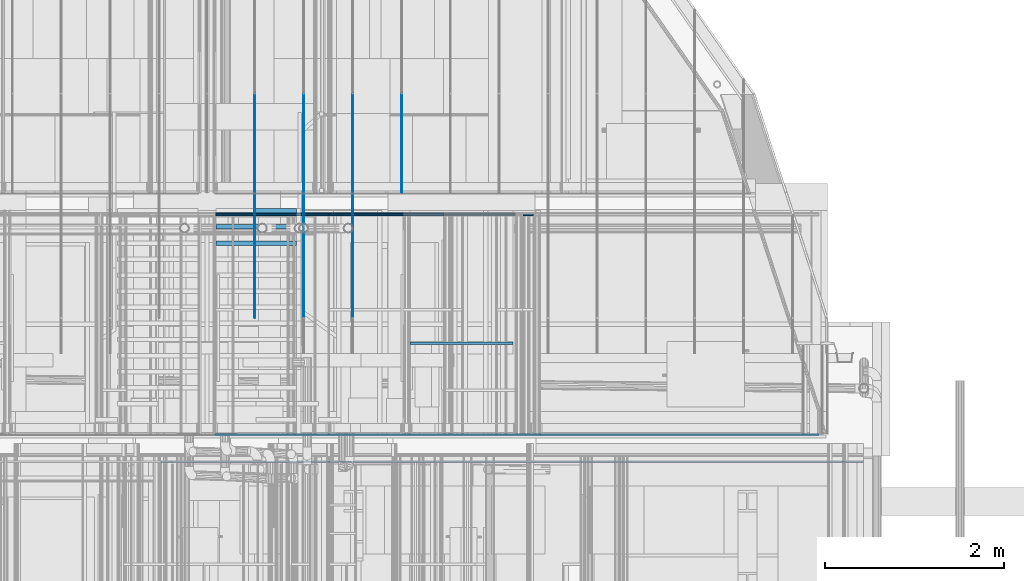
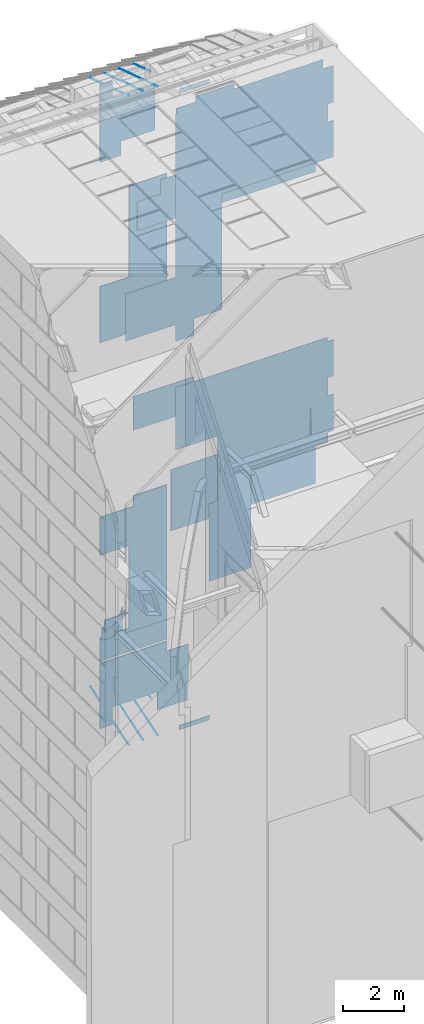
# One storey, part 283 of 583: 28 slabs.
"""IFC2X3 building model written with IfcOpenShell, lengths in metres."""

from ifc_helpers import new_model, entity, si_unit, converted_unit, derived_unit, money_unit, direction, frame, origin_with_axes, place, context, subcontext, project, spatial, faceted_brep, material, type_object, element, save


model = new_model("IFC2X3")

# Units and contexts
model_context = context("Model", 3, precision=1e-05, world=origin_with_axes(), true_north=direction((0.0, 1.0)))
body_context = subcontext(model_context, "Body", "Model", "MODEL_VIEW", scale=1.0)
ifc_project = project(units=[si_unit("LENGTHUNIT", "METRE"), si_unit("AREAUNIT", "SQUARE_METRE"), si_unit("VOLUMEUNIT", "CUBIC_METRE"), si_unit("ABSORBEDDOSEUNIT", "GRAY"), si_unit("AMOUNTOFSUBSTANCEUNIT", "MOLE"), si_unit("DOSEEQUIVALENTUNIT", "SIEVERT"), si_unit("ELECTRICCAPACITANCEUNIT", "FARAD"), si_unit("ELECTRICCHARGEUNIT", "COULOMB"), si_unit("ELECTRICCONDUCTANCEUNIT", "SIEMENS"), si_unit("ELECTRICCURRENTUNIT", "AMPERE"), si_unit("ELECTRICRESISTANCEUNIT", "OHM"), si_unit("ELECTRICVOLTAGEUNIT", "VOLT"), si_unit("ENERGYUNIT", "JOULE"), si_unit("FORCEUNIT", "NEWTON"), si_unit("FREQUENCYUNIT", "HERTZ"), si_unit("ILLUMINANCEUNIT", "LUX"), si_unit("INDUCTANCEUNIT", "HENRY"), si_unit("LUMINOUSFLUXUNIT", "LUMEN"), si_unit("LUMINOUSINTENSITYUNIT", "CANDELA"), si_unit("MAGNETICFLUXDENSITYUNIT", "TESLA"), si_unit("MAGNETICFLUXUNIT", "WEBER"), si_unit("MASSUNIT", "GRAM"), converted_unit("PLANEANGLEUNIT", "degree", entity("IfcReal", 0.0174532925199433), si_unit("PLANEANGLEUNIT", "RADIAN"), dimensions=[0, 0, 0, 0, 0, 0, 0]), si_unit("POWERUNIT", "WATT"), si_unit("PRESSUREUNIT", "PASCAL"), si_unit("RADIOACTIVITYUNIT", "BECQUEREL"), si_unit("SOLIDANGLEUNIT", "STERADIAN"), si_unit("THERMODYNAMICTEMPERATUREUNIT", "KELVIN"), si_unit("TIMEUNIT", "SECOND"), derived_unit("ACCELERATIONUNIT", [(si_unit("LENGTHUNIT", "METRE"), 1), (si_unit("TIMEUNIT", "SECOND"), -2)]), derived_unit("ANGULARVELOCITYUNIT", [(converted_unit("PLANEANGLEUNIT", "degree", entity("IfcReal", 0.0174532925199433), si_unit("PLANEANGLEUNIT", "RADIAN"), dimensions=[0, 0, 0, 0, 0, 0, 0]), 1), (si_unit("TIMEUNIT", "SECOND"), -1)]), derived_unit("CURVATUREUNIT", [(converted_unit("PLANEANGLEUNIT", "degree", entity("IfcReal", 0.0174532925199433), si_unit("PLANEANGLEUNIT", "RADIAN"), dimensions=[0, 0, 0, 0, 0, 0, 0]), 1), (si_unit("LENGTHUNIT", "METRE"), -1)]), derived_unit("DYNAMICVISCOSITYUNIT", [(si_unit("PRESSUREUNIT", "PASCAL"), 1), (si_unit("TIMEUNIT", "SECOND"), 1)]), derived_unit("HEATFLUXDENSITYUNIT", [(si_unit("POWERUNIT", "WATT"), 1), (si_unit("LENGTHUNIT", "METRE"), -2)]), derived_unit("HEATINGVALUEUNIT", [(si_unit("ENERGYUNIT", "JOULE"), 1), (si_unit("MASSUNIT", "GRAM"), -1)]), derived_unit("INTEGERCOUNTRATEUNIT", [(si_unit("TIMEUNIT", "SECOND"), -1)]), derived_unit("IONCONCENTRATIONUNIT", [(si_unit("MASSUNIT", "GRAM"), 1), (si_unit("VOLUMEUNIT", "CUBIC_METRE"), -1)]), derived_unit("ISOTHERMALMOISTURECAPACITYUNIT", [(si_unit("VOLUMEUNIT", "CUBIC_METRE"), 1), (si_unit("MASSUNIT", "GRAM"), -1)]), derived_unit("KINEMATICVISCOSITYUNIT", [(si_unit("AREAUNIT", "SQUARE_METRE"), 1), (si_unit("TIMEUNIT", "SECOND"), -1)]), derived_unit("LINEARFORCEUNIT", [(si_unit("FORCEUNIT", "NEWTON"), 1), (si_unit("LENGTHUNIT", "METRE"), -1)]), derived_unit("LINEARMOMENTUNIT", [(si_unit("FORCEUNIT", "NEWTON"), 1), (si_unit("LENGTHUNIT", "METRE"), -1)]), derived_unit("LINEARSTIFFNESSUNIT", [(si_unit("FORCEUNIT", "NEWTON"), 1), (si_unit("LENGTHUNIT", "METRE"), -1)]), derived_unit("LINEARVELOCITYUNIT", [(si_unit("LENGTHUNIT", "METRE"), 1), (si_unit("TIMEUNIT", "SECOND"), -1)]), derived_unit("LUMINOUSINTENSITYDISTRIBUTIONUNIT", [(si_unit("LUMINOUSINTENSITYUNIT", "CANDELA"), 1), (si_unit("LUMINOUSFLUXUNIT", "LUMEN"), -1)]), derived_unit("MASSDENSITYUNIT", [(si_unit("MASSUNIT", "GRAM"), 1), (si_unit("VOLUMEUNIT", "CUBIC_METRE"), -1)]), derived_unit("MASSFLOWRATEUNIT", [(si_unit("MASSUNIT", "GRAM"), 1), (si_unit("TIMEUNIT", "SECOND"), -1)]), derived_unit("MASSPERLENGTHUNIT", [(si_unit("MASSUNIT", "GRAM"), 1), (si_unit("LENGTHUNIT", "METRE"), -1)]), derived_unit("MODULUSOFELASTICITYUNIT", [(si_unit("FORCEUNIT", "NEWTON"), 1), (si_unit("AREAUNIT", "SQUARE_METRE"), -1)]), derived_unit("MODULUSOFLINEARSUBGRADEREACTIONUNIT", [(si_unit("FORCEUNIT", "NEWTON"), 1), (si_unit("LENGTHUNIT", "METRE"), -2)]), derived_unit("MODULUSOFROTATIONALSUBGRADEREACTIONUNIT", [(si_unit("FORCEUNIT", "NEWTON"), 1), (si_unit("LENGTHUNIT", "METRE"), 1)]), derived_unit("MODULUSOFSUBGRADEREACTIONUNIT", [(si_unit("FORCEUNIT", "NEWTON"), 1), (si_unit("VOLUMEUNIT", "CUBIC_METRE"), -1)]), derived_unit("MOISTUREDIFFUSIVITYUNIT", [(si_unit("VOLUMEUNIT", "CUBIC_METRE"), 1), (si_unit("TIMEUNIT", "SECOND"), -1)]), derived_unit("MOLECULARWEIGHTUNIT", [(si_unit("MASSUNIT", "GRAM"), 1), (si_unit("AMOUNTOFSUBSTANCEUNIT", "MOLE"), -1)]), derived_unit("PLANARFORCEUNIT", [(si_unit("FORCEUNIT", "NEWTON"), 1), (si_unit("LENGTHUNIT", "METRE"), -2)]), derived_unit("ROTATIONALFREQUENCYUNIT", [(si_unit("TIMEUNIT", "SECOND"), -1)]), derived_unit("ROTATIONALMASSUNIT", [(si_unit("MASSUNIT", "GRAM"), 1), (si_unit("LENGTHUNIT", "METRE"), 2)]), derived_unit("ROTATIONALSTIFFNESSUNIT", [(si_unit("FORCEUNIT", "NEWTON"), 1), (si_unit("LENGTHUNIT", "METRE"), 1), (converted_unit("PLANEANGLEUNIT", "degree", entity("IfcReal", 0.0174532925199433), si_unit("PLANEANGLEUNIT", "RADIAN"), dimensions=[0, 0, 0, 0, 0, 0, 0]), -1)]), derived_unit("SECTIONAREAINTEGRALUNIT", [(si_unit("LENGTHUNIT", "METRE"), 5)]), derived_unit("SECTIONMODULUSUNIT", [(si_unit("LENGTHUNIT", "METRE"), 3)]), derived_unit("SHEARMODULUSUNIT", [(si_unit("FORCEUNIT", "NEWTON"), 1), (si_unit("AREAUNIT", "SQUARE_METRE"), -1)]), derived_unit("SOUNDPOWERUNIT", [(si_unit("ENERGYUNIT", "JOULE"), 1), (si_unit("TIMEUNIT", "SECOND"), -1)]), derived_unit("SPECIFICHEATCAPACITYUNIT", [(si_unit("FORCEUNIT", "NEWTON"), 1), (si_unit("MASSUNIT", "GRAM"), -1), (si_unit("THERMODYNAMICTEMPERATUREUNIT", "KELVIN"), -1)]), derived_unit("TEMPERATUREGRADIENTUNIT", [(si_unit("THERMODYNAMICTEMPERATUREUNIT", "KELVIN"), 1), (si_unit("LENGTHUNIT", "METRE"), -1)]), derived_unit("THERMALADMITTANCEUNIT", [(si_unit("POWERUNIT", "WATT"), 1), (si_unit("AREAUNIT", "SQUARE_METRE"), -1), (si_unit("THERMODYNAMICTEMPERATUREUNIT", "KELVIN"), -1)]), derived_unit("THERMALCONDUCTANCEUNIT", [(si_unit("POWERUNIT", "WATT"), 1), (si_unit("LENGTHUNIT", "METRE"), -1), (si_unit("THERMODYNAMICTEMPERATUREUNIT", "KELVIN"), -1)]), derived_unit("THERMALEXPANSIONCOEFFICIENTUNIT", [(si_unit("THERMODYNAMICTEMPERATUREUNIT", "KELVIN"), -1)]), derived_unit("THERMALRESISTANCEUNIT", [(si_unit("AREAUNIT", "SQUARE_METRE"), 1), (si_unit("POWERUNIT", "WATT"), -1)]), derived_unit("THERMALTRANSMITTANCEUNIT", [(si_unit("POWERUNIT", "WATT"), 1), (si_unit("AREAUNIT", "SQUARE_METRE"), -1), (si_unit("THERMODYNAMICTEMPERATUREUNIT", "KELVIN"), -1)]), derived_unit("TORQUEUNIT", [(si_unit("FORCEUNIT", "NEWTON"), 1), (si_unit("LENGTHUNIT", "METRE"), 1)]), derived_unit("VAPORPERMEABILITYUNIT", [(si_unit("MASSUNIT", "GRAM"), 1), (si_unit("TIMEUNIT", "SECOND"), -1)]), derived_unit("VOLUMETRICFLOWRATEUNIT", [(si_unit("VOLUMEUNIT", "CUBIC_METRE"), 1), (si_unit("TIMEUNIT", "SECOND"), -1)]), derived_unit("WARPINGCONSTANTUNIT", [(si_unit("LENGTHUNIT", "METRE"), 6)]), derived_unit("WARPINGMOMENTUNIT", [(si_unit("FORCEUNIT", "NEWTON"), 1), (si_unit("LENGTHUNIT", "METRE"), 2)]), money_unit("GBP")], contexts=[model_context])

# Site, building, storey
site_placement = place(None, origin_with_axes())
site = spatial("IfcSite", under=ifc_project, at=site_placement, Name="Site", CompositionType="ELEMENT")
building_placement = place(site_placement, origin_with_axes())
building = spatial("IfcBuilding", under=site, at=building_placement, Name="Building01", CompositionType="ELEMENT")
storey_placement = place(building_placement, frame((0.0, 0.0, 20.78), z_axis=(0.0, 0.0, 1.0), x_axis=(1.0, 0.0, 0.0)))
storey = spatial("IfcBuildingStorey", under=building, at=storey_placement, Name="RL", CompositionType="ELEMENT", Elevation=20.78)

# Slabs
ifc_material_1 = material(Name="A_BSUK_CeilingSoffitFinishes_Suspended")
slab_type_1 = type_object("IfcSlabType", Name="A-FloorsSlabs A_BSUK_Slabs", PredefinedType="FLOOR")
placement = place(storey_placement, frame((0.0, 0.0, -20.78), z_axis=(0.0, 0.0, 1.0), x_axis=(1.0, 0.0, 0.0)))
element("IfcSlab", 1, at=placement, inside=storey, type_object=slab_type_1, material=ifc_material_1, Name="A-FloorsSlabs A_BSUK_Slabs", ObjectType="CompoundSlabLeaf", context=body_context, shape_type="Brep", body=[
    faceted_brep([(10.415, 14.658, 12.988585), (10.415, 14.673, 12.988585), (10.415, 14.673, 10.393871), (10.415, 14.658, 10.393871), (8.82, 14.658, 12.988585), (8.82, 14.673, 12.988585), (8.82, 14.658, 15.483132), (8.82, 14.673, 15.483132), (14.567, 14.658, 15.483132), (14.567, 14.673, 15.483132), (14.567, 14.658, 15.32), (14.567, 14.673, 15.32), (14.8, 14.658, 15.32), (14.8, 14.673, 15.32), (14.8, 14.658, 13.865), (14.8, 14.673, 13.865), (14.582, 14.658, 13.865), (14.582, 14.673, 13.865), (14.582, 14.658, 13.145), (14.582, 14.673, 13.145), (14.8, 14.658, 13.145), (14.8, 14.673, 13.145), (14.8, 14.658, 11.675), (14.8, 14.673, 11.675), (14.582, 14.658, 11.675), (14.582, 14.673, 11.675), (14.582, 14.658, 11.275), (14.582, 14.673, 11.275), (11.668124, 14.658, 11.275), (11.668124, 14.673, 11.275), (11.668124, 14.658, 10.653), (11.668124, 14.673, 10.653), (11.668124, 14.658, 9.642), (11.668124, 14.673, 9.642), (11.668124, 14.658, 7.289669), (11.668124, 14.673, 7.289669), (10.087704, 14.658, 7.289669), (10.087704, 14.673, 7.289669), (10.087704, 14.658, 10.393871), (10.087704, 14.673, 10.393871)], [[[0, 1, 2, 3]], [[4, 5, 1, 0]], [[6, 7, 5, 4]], [[8, 9, 7, 6]], [[10, 11, 9, 8]], [[12, 13, 11, 10]], [[14, 15, 13, 12]], [[16, 17, 15, 14]], [[18, 19, 17, 16]], [[20, 21, 19, 18]], [[22, 23, 21, 20]], [[24, 25, 23, 22]], [[26, 27, 25, 24]], [[28, 29, 27, 26]], [[30, 31, 29, 28]], [[32, 33, 31, 30]], [[34, 35, 33, 32]], [[36, 37, 35, 34]], [[38, 39, 37, 36]], [[3, 2, 39, 38]], [[1, 5, 7, 9, 11, 13, 15, 17, 19, 21, 23, 25, 27, 29, 31, 33, 35, 37, 39, 2]], [[3, 38, 36, 34, 32, 30, 28, 26, 24, 22, 20, 18, 16, 14, 12, 10, 8, 6, 4, 0]]]),
])
element("IfcSlab", 2, at=placement, inside=storey, type_object=slab_type_1, material=ifc_material_1, Name="A-FloorsSlabs A_BSUK_Slabs", ObjectType="CompoundSlabLeaf", context=body_context, shape_type="Brep", body=[
    faceted_brep([(6.93, 14.658, 18.395), (6.93, 14.673, 18.395), (6.93, 14.673, 18.0), (6.93, 14.658, 18.0), (6.93, 14.658, 19.395), (6.93, 14.673, 19.395), (6.93, 14.658, 19.897661), (6.93, 14.673, 19.897661), (8.82, 14.658, 19.897661), (8.82, 14.673, 19.897661), (8.82, 14.658, 26.432), (8.82, 14.673, 26.432), (8.848, 14.658, 26.432), (8.848, 14.673, 26.432), (8.848, 14.658, 26.646178), (8.848, 14.673, 26.646178), (9.57718, 14.658, 26.646178), (9.57718, 14.673, 26.646178), (9.57718, 14.658, 26.88), (9.57718, 14.673, 26.88), (11.03218, 14.658, 26.88), (11.03218, 14.673, 26.88), (11.03218, 14.658, 26.662), (11.03218, 14.673, 26.662), (14.402, 14.658, 26.662), (14.402, 14.673, 26.662), (14.402, 14.658, 26.285), (14.402, 14.673, 26.285), (14.8, 14.658, 26.285), (14.8, 14.673, 26.285), (14.8, 14.658, 24.815), (14.8, 14.673, 24.815), (14.582, 14.658, 24.815), (14.582, 14.673, 24.815), (14.582, 14.658, 24.095), (14.582, 14.673, 24.095), (14.8, 14.658, 24.095), (14.8, 14.673, 24.095), (14.8, 14.658, 22.625), (14.8, 14.673, 22.625), (10.57, 14.658, 22.625), (10.57, 14.673, 22.625), (10.57, 14.658, 19.891284), (10.57, 14.673, 19.891284), (10.57, 14.658, 19.044398), (10.57, 14.673, 19.044398), (10.57, 14.658, 18.0), (10.57, 14.673, 18.0), (9.525, 14.658, 18.0), (9.525, 14.673, 18.0), (9.525, 14.658, 17.333132), (9.525, 14.673, 17.333132), (8.82, 14.658, 17.333132), (8.82, 14.673, 17.333132), (8.82, 14.658, 18.0), (8.82, 14.673, 18.0), (7.82088, 14.658, 18.0), (7.82088, 14.673, 18.0), (7.02888, 14.658, 18.0), (7.02888, 14.673, 18.0)], [[[0, 1, 2, 3]], [[4, 5, 1, 0]], [[6, 7, 5, 4]], [[8, 9, 7, 6]], [[10, 11, 9, 8]], [[12, 13, 11, 10]], [[14, 15, 13, 12]], [[16, 17, 15, 14]], [[18, 19, 17, 16]], [[20, 21, 19, 18]], [[22, 23, 21, 20]], [[24, 25, 23, 22]], [[26, 27, 25, 24]], [[28, 29, 27, 26]], [[30, 31, 29, 28]], [[32, 33, 31, 30]], [[34, 35, 33, 32]], [[36, 37, 35, 34]], [[38, 39, 37, 36]], [[40, 41, 39, 38]], [[42, 43, 41, 40]], [[44, 45, 43, 42]], [[46, 47, 45, 44]], [[48, 49, 47, 46]], [[50, 51, 49, 48]], [[52, 53, 51, 50]], [[54, 55, 53, 52]], [[56, 57, 55, 54]], [[58, 59, 57, 56]], [[3, 2, 59, 58]], [[1, 5, 7, 9, 11, 13, 15, 17, 19, 21, 23, 25, 27, 29, 31, 33, 35, 37, 39, 41, 43, 45, 47, 49, 51, 53, 55, 57, 59, 2]], [[3, 58, 56, 54, 52, 50, 48, 46, 44, 42, 40, 38, 36, 34, 32, 30, 28, 26, 24, 22, 20, 18, 16, 14, 12, 10, 8, 6, 4, 0]]]),
])
element("IfcSlab", 3, at=placement, inside=storey, type_object=slab_type_1, material=ifc_material_1, Name="A-FloorsSlabs A_BSUK_Slabs", ObjectType="CompoundSlabLeaf", context=body_context, shape_type="Brep", body=[
    faceted_brep([(10.899939, 17.423, 1.336179), (10.899939, 17.438, 1.336179), (10.899939, 17.438, 2.82), (10.899939, 17.423, 2.82), (10.874915, 17.423, 1.336179), (10.874915, 17.438, 1.336179), (10.874915, 17.423, 0.599939), (10.874915, 17.438, 0.599939), (9.724964, 17.423, 0.599939), (9.724964, 17.438, 0.599939), (9.724964, 17.423, 1.312402), (9.724964, 17.438, 1.312402), (8.024915, 17.423, 1.312402), (8.024915, 17.438, 1.312402), (8.024915, 17.423, 0.599939), (8.024915, 17.438, 0.599939), (7.550061, 17.423, 0.599939), (7.550061, 17.438, 0.599939), (7.550061, 17.423, 3.22), (7.550061, 17.438, 3.22), (10.099939, 17.423, 3.22), (10.099939, 17.438, 3.22), (10.099939, 17.423, 2.82), (10.099939, 17.438, 2.82)], [[[0, 1, 2, 3]], [[4, 5, 1, 0]], [[6, 7, 5, 4]], [[8, 9, 7, 6]], [[10, 11, 9, 8]], [[12, 13, 11, 10]], [[14, 15, 13, 12]], [[16, 17, 15, 14]], [[18, 19, 17, 16]], [[20, 21, 19, 18]], [[22, 23, 21, 20]], [[3, 2, 23, 22]], [[1, 5, 7, 9, 11, 13, 15, 17, 19, 21, 23, 2]], [[3, 22, 20, 18, 16, 14, 12, 10, 8, 6, 4, 0]]]),
])
element("IfcSlab", 4, at=placement, inside=storey, type_object=slab_type_1, material=ifc_material_1, Name="A-FloorsSlabs A_BSUK_Slabs", ObjectType="CompoundSlabLeaf", context=body_context, shape_type="Brep", body=[
    faceted_brep([(8.695061, 17.423, 3.3), (8.695061, 17.438, 3.3), (10.099939, 17.438, 3.3), (10.099939, 17.423, 3.3), (7.550061, 17.423, 3.3), (7.550061, 17.438, 3.3), (7.550061, 17.423, 4.24), (7.550061, 17.438, 4.24), (8.647427, 17.423, 4.24), (8.647427, 17.438, 4.24), (8.647427, 17.423, 7.54), (8.647427, 17.438, 7.54), (7.55, 17.423, 7.54), (7.55, 17.438, 7.54), (7.55, 17.423, 9.06), (7.55, 17.438, 9.06), (8.82, 17.423, 9.06), (8.82, 17.438, 9.06), (8.82, 17.423, 9.480024), (8.82, 17.438, 9.480024), (10.099939, 17.423, 9.480024), (10.099939, 17.438, 9.480024)], [[[0, 1, 2, 3]], [[4, 5, 1, 0]], [[6, 7, 5, 4]], [[8, 9, 7, 6]], [[10, 11, 9, 8]], [[12, 13, 11, 10]], [[14, 15, 13, 12]], [[16, 17, 15, 14]], [[18, 19, 17, 16]], [[20, 21, 19, 18]], [[3, 2, 21, 20]], [[1, 5, 7, 9, 11, 13, 15, 17, 19, 21, 2]], [[3, 20, 18, 16, 14, 12, 10, 8, 6, 4, 0]]]),
])
element("IfcSlab", 5, at=placement, inside=storey, type_object=slab_type_1, material=ifc_material_1, Name="A-FloorsSlabs A_BSUK_Slabs", ObjectType="CompoundSlabLeaf", context=body_context, shape_type="Brep", body=[
    faceted_brep([(8.82, 17.423, 12.097381), (8.82, 17.438, 12.097381), (11.103849, 17.438, 12.097381), (11.103849, 17.423, 12.097381), (8.82, 17.423, 13.297256), (8.82, 17.438, 13.297256), (8.82, 17.423, 13.45), (8.82, 17.438, 13.45), (11.103849, 17.423, 13.45), (11.103849, 17.438, 13.45)], [[[0, 1, 2, 3]], [[4, 5, 1, 0]], [[6, 7, 5, 4]], [[8, 9, 7, 6]], [[3, 2, 9, 8]], [[1, 5, 7, 9, 2]], [[3, 8, 6, 4, 0]]]),
])
element("IfcSlab", 6, at=placement, inside=storey, type_object=slab_type_1, material=ifc_material_1, Name="A-FloorsSlabs A_BSUK_Slabs", ObjectType="CompoundSlabLeaf", context=body_context, shape_type="Brep", body=[
    faceted_brep([(7.549915, 17.423, 16.03844), (7.549915, 17.438, 16.03844), (10.099939, 17.438, 16.03844), (10.099939, 17.423, 16.03844), (7.549915, 17.423, 18.289976), (7.549915, 17.438, 18.289976), (8.647427, 17.423, 18.289976), (8.647427, 17.438, 18.289976), (8.647427, 17.423, 21.268457), (8.647427, 17.438, 21.268457), (8.647427, 17.423, 21.939976), (8.647427, 17.438, 21.939976), (10.099939, 17.423, 21.939976), (10.099939, 17.438, 21.939976)], [[[0, 1, 2, 3]], [[4, 5, 1, 0]], [[6, 7, 5, 4]], [[8, 9, 7, 6]], [[10, 11, 9, 8]], [[12, 13, 11, 10]], [[3, 2, 13, 12]], [[1, 5, 7, 9, 11, 13, 2]], [[3, 12, 10, 8, 6, 4, 0]]]),
])
element("IfcSlab", 7, at=placement, inside=storey, type_object=slab_type_1, material=ifc_material_1, Name="A-FloorsSlabs A_BSUK_Slabs", ObjectType="CompoundSlabLeaf", context=body_context, shape_type="Brep", body=[
    faceted_brep([(8.349915, 17.423, 23.83), (8.349915, 17.438, 23.83), (9.645024, 17.438, 23.83), (9.645024, 17.423, 23.83), (8.349915, 17.423, 23.258821), (8.349915, 17.438, 23.258821), (7.549915, 17.423, 23.258821), (7.549915, 17.438, 23.258821), (7.549915, 17.423, 26.380061), (7.549915, 17.438, 26.380061), (8.024915, 17.423, 26.380061), (8.024915, 17.438, 26.380061), (8.024915, 17.423, 25.667598), (8.024915, 17.438, 25.667598), (9.645085, 17.423, 25.667598), (9.645085, 17.438, 25.667598)], [[[0, 1, 2, 3]], [[4, 5, 1, 0]], [[6, 7, 5, 4]], [[8, 9, 7, 6]], [[10, 11, 9, 8]], [[12, 13, 11, 10]], [[14, 15, 13, 12]], [[3, 2, 15, 14]], [[1, 5, 7, 9, 11, 13, 15, 2]], [[3, 14, 12, 10, 8, 6, 4, 0]]]),
])
ifc_material_2 = material(Name="A_BSUK_ExpandedPolystyreneBoards")
element("IfcSlab", 8, at=placement, inside=storey, type_object=slab_type_1, material=ifc_material_2, Name="A-FloorsSlabs A_BSUK_Slabs", ObjectType="CompoundSlabLeaf", context=body_context, shape_type="Brep", body=[
    faceted_brep([(8.82, 14.965, 12.017381), (8.82, 14.968, 12.017381), (8.82, 14.968, 9.560024), (8.82, 14.965, 9.560024), (11.183849, 14.965, 12.017381), (11.183849, 14.968, 12.017381), (11.183849, 14.965, 13.45), (11.183849, 14.968, 13.45), (14.2962, 14.965, 13.45), (14.2962, 14.968, 13.45), (14.2962, 14.965, 12.979976), (14.2962, 14.968, 12.979976), (14.2962, 14.965, 11.830024), (14.2962, 14.968, 11.830024), (14.2962, 14.965, 10.789976), (14.2962, 14.968, 10.789976), (14.2962, 14.965, 9.640024), (14.2962, 14.968, 9.640024), (14.2962, 14.965, 9.560024), (14.2962, 14.968, 9.560024)], [[[0, 1, 2, 3]], [[4, 5, 1, 0]], [[6, 7, 5, 4]], [[8, 9, 7, 6]], [[10, 11, 9, 8]], [[12, 13, 11, 10]], [[14, 15, 13, 12]], [[16, 17, 15, 14]], [[18, 19, 17, 16]], [[3, 2, 19, 18]], [[1, 5, 7, 9, 11, 13, 15, 17, 19, 2]], [[3, 18, 16, 14, 12, 10, 8, 6, 4, 0]]]),
])
element("IfcSlab", 9, at=placement, inside=storey, type_object=slab_type_1, material=ifc_material_2, Name="A-FloorsSlabs A_BSUK_Slabs", ObjectType="CompoundSlabLeaf", context=body_context, shape_type="Brep", body=[
    faceted_brep([(7.549915, 14.965, 22.019976), (7.549915, 14.968, 22.019976), (14.2962, 14.968, 22.019976), (14.2962, 14.965, 22.019976), (7.549915, 14.965, 23.178821), (7.549915, 14.968, 23.178821), (8.429915, 14.965, 23.178821), (8.429915, 14.968, 23.178821), (8.429915, 14.965, 23.75), (8.429915, 14.968, 23.75), (9.724915, 14.965, 23.75), (9.724915, 14.968, 23.75), (9.724915, 14.965, 26.3762), (9.724915, 14.968, 26.3762), (10.874915, 14.965, 26.3762), (10.874915, 14.968, 26.3762), (14.2962, 14.965, 26.3762), (14.2962, 14.968, 26.3762), (14.2962, 14.965, 23.930024), (14.2962, 14.968, 23.930024), (14.2962, 14.965, 22.780024), (14.2962, 14.968, 22.780024)], [[[0, 1, 2, 3]], [[4, 5, 1, 0]], [[6, 7, 5, 4]], [[8, 9, 7, 6]], [[10, 11, 9, 8]], [[12, 13, 11, 10]], [[14, 15, 13, 12]], [[16, 17, 15, 14]], [[18, 19, 17, 16]], [[20, 21, 19, 18]], [[3, 2, 21, 20]], [[1, 5, 7, 9, 11, 13, 15, 17, 19, 21, 2]], [[3, 20, 18, 16, 14, 12, 10, 8, 6, 4, 0]]]),
])
ifc_material_3 = material(Name="A_BSUK_Timber_Miscellaneous")
element("IfcSlab", 10, at=placement, inside=storey, type_object=slab_type_1, material=ifc_material_3, Name="A-FloorsSlabs A_BSUK_Slabs", ObjectType="CompoundSlabLeaf", context=body_context, shape_type="Brep", body=[
    faceted_brep([(9.724915, 15.98, 26.304661), (9.724915, 16.005, 26.304661), (9.724915, 16.005, 26.130059), (9.724915, 15.98, 26.130059), (10.874915, 15.98, 26.304661), (10.874915, 16.005, 26.304661), (10.874915, 15.98, 26.130061), (10.874915, 16.005, 26.130061)], [[[0, 1, 2, 3]], [[4, 5, 1, 0]], [[6, 7, 5, 4]], [[3, 2, 7, 6]], [[1, 5, 7, 2]], [[3, 6, 4, 0]]]),
])
element("IfcSlab", 11, at=placement, inside=storey, type_object=slab_type_1, material=ifc_material_3, Name="A-FloorsSlabs A_BSUK_Slabs", ObjectType="CompoundSlabLeaf", context=body_context, shape_type="Brep", body=[
    faceted_brep([(9.724915, 15.98, 0.849939), (9.724915, 16.005, 0.849939), (9.724915, 16.005, 0.675339), (9.724915, 15.98, 0.675339), (10.874915, 15.98, 0.849939), (10.874915, 16.005, 0.849939), (10.874915, 15.98, 0.675339), (10.874915, 16.005, 0.675339)], [[[0, 1, 2, 3]], [[4, 5, 1, 0]], [[6, 7, 5, 4]], [[3, 2, 7, 6]], [[1, 5, 7, 2]], [[3, 6, 4, 0]]]),
])
element("IfcSlab", 12, at=placement, inside=storey, type_object=slab_type_1, material=ifc_material_1, Name="A-FloorsSlabs A_BSUK_Slabs", ObjectType="CompoundSlabLeaf", context=body_context, shape_type="Brep", body=[
    faceted_brep([(10.899939, 17.438, 1.336179), (10.899939, 17.453, 1.336179), (10.899939, 17.453, 2.82), (10.899939, 17.438, 2.82), (10.874915, 17.438, 1.336179), (10.874915, 17.453, 1.336179), (10.874915, 17.438, 0.599939), (10.874915, 17.453, 0.599939), (9.724964, 17.438, 0.599939), (9.724964, 17.453, 0.599939), (9.724964, 17.438, 1.312402), (9.724964, 17.453, 1.312402), (8.024915, 17.438, 1.312402), (8.024915, 17.453, 1.312402), (8.024915, 17.438, 0.599939), (8.024915, 17.453, 0.599939), (7.550061, 17.438, 0.599939), (7.550061, 17.453, 0.599939), (7.550061, 17.438, 3.22), (7.550061, 17.453, 3.22), (10.099939, 17.438, 3.22), (10.099939, 17.453, 3.22), (10.099939, 17.438, 2.82), (10.099939, 17.453, 2.82)], [[[0, 1, 2, 3]], [[4, 5, 1, 0]], [[6, 7, 5, 4]], [[8, 9, 7, 6]], [[10, 11, 9, 8]], [[12, 13, 11, 10]], [[14, 15, 13, 12]], [[16, 17, 15, 14]], [[18, 19, 17, 16]], [[20, 21, 19, 18]], [[22, 23, 21, 20]], [[3, 2, 23, 22]], [[1, 5, 7, 9, 11, 13, 15, 17, 19, 21, 23, 2]], [[3, 22, 20, 18, 16, 14, 12, 10, 8, 6, 4, 0]]]),
])
element("IfcSlab", 13, at=placement, inside=storey, type_object=slab_type_1, material=ifc_material_1, Name="A-FloorsSlabs A_BSUK_Slabs", ObjectType="CompoundSlabLeaf", context=body_context, shape_type="Brep", body=[
    faceted_brep([(8.695061, 17.438, 3.3), (8.695061, 17.453, 3.3), (10.099939, 17.453, 3.3), (10.099939, 17.438, 3.3), (7.550061, 17.438, 3.3), (7.550061, 17.453, 3.3), (7.550061, 17.438, 4.24), (7.550061, 17.453, 4.24), (8.647427, 17.438, 4.24), (8.647427, 17.453, 4.24), (8.647427, 17.438, 7.54), (8.647427, 17.453, 7.54), (7.55, 17.438, 7.54), (7.55, 17.453, 7.54), (7.55, 17.438, 9.06), (7.55, 17.453, 9.06), (8.82, 17.438, 9.06), (8.82, 17.453, 9.06), (8.82, 17.438, 9.480024), (8.82, 17.453, 9.480024), (10.099939, 17.438, 9.480024), (10.099939, 17.453, 9.480024)], [[[0, 1, 2, 3]], [[4, 5, 1, 0]], [[6, 7, 5, 4]], [[8, 9, 7, 6]], [[10, 11, 9, 8]], [[12, 13, 11, 10]], [[14, 15, 13, 12]], [[16, 17, 15, 14]], [[18, 19, 17, 16]], [[20, 21, 19, 18]], [[3, 2, 21, 20]], [[1, 5, 7, 9, 11, 13, 15, 17, 19, 21, 2]], [[3, 20, 18, 16, 14, 12, 10, 8, 6, 4, 0]]]),
])
element("IfcSlab", 14, at=placement, inside=storey, type_object=slab_type_1, material=ifc_material_1, Name="A-FloorsSlabs A_BSUK_Slabs", ObjectType="CompoundSlabLeaf", context=body_context, shape_type="Brep", body=[
    faceted_brep([(7.549915, 17.438, 16.03844), (7.549915, 17.453, 16.03844), (10.099939, 17.453, 16.03844), (10.099939, 17.438, 16.03844), (7.549915, 17.438, 18.289976), (7.549915, 17.453, 18.289976), (8.647427, 17.438, 18.289976), (8.647427, 17.453, 18.289976), (8.647427, 17.438, 21.268457), (8.647427, 17.453, 21.268457), (8.647427, 17.438, 21.939976), (8.647427, 17.453, 21.939976), (10.099939, 17.438, 21.939976), (10.099939, 17.453, 21.939976)], [[[0, 1, 2, 3]], [[4, 5, 1, 0]], [[6, 7, 5, 4]], [[8, 9, 7, 6]], [[10, 11, 9, 8]], [[12, 13, 11, 10]], [[3, 2, 13, 12]], [[1, 5, 7, 9, 11, 13, 2]], [[3, 12, 10, 8, 6, 4, 0]]]),
])
element("IfcSlab", 15, at=placement, inside=storey, type_object=slab_type_1, material=ifc_material_1, Name="A-FloorsSlabs A_BSUK_Slabs", ObjectType="CompoundSlabLeaf", context=body_context, shape_type="Brep", body=[
    faceted_brep([(8.349915, 17.438, 23.83), (8.349915, 17.453, 23.83), (9.645024, 17.453, 23.83), (9.645024, 17.438, 23.83), (8.349915, 17.438, 23.258821), (8.349915, 17.453, 23.258821), (7.549915, 17.438, 23.258821), (7.549915, 17.453, 23.258821), (7.549915, 17.438, 26.380061), (7.549915, 17.453, 26.380061), (8.024915, 17.438, 26.380061), (8.024915, 17.453, 26.380061), (8.024915, 17.438, 25.667598), (8.024915, 17.453, 25.667598), (9.645085, 17.438, 25.667598), (9.645085, 17.453, 25.667598)], [[[0, 1, 2, 3]], [[4, 5, 1, 0]], [[6, 7, 5, 4]], [[8, 9, 7, 6]], [[10, 11, 9, 8]], [[12, 13, 11, 10]], [[14, 15, 13, 12]], [[3, 2, 15, 14]], [[1, 5, 7, 9, 11, 13, 15, 2]], [[3, 14, 12, 10, 8, 6, 4, 0]]]),
])
ifc_material_4 = material(Name="A_BSUK_Slabs")
element("IfcSlab", 16, at=placement, inside=storey, type_object=slab_type_1, material=ifc_material_4, Name="A-FloorsSlabs A_BSUK_Slabs", ObjectType="CompoundSlabLeaf", context=body_context, shape_type="Brep", body=[
    faceted_brep([(8.449939, 17.45, 4.24), (8.449939, 17.5, 4.24), (8.449939, 17.5, 5.14), (8.449939, 17.45, 5.14), (7.999939, 17.45, 4.24), (7.999939, 17.5, 4.24)], [[[0, 1, 2, 3]], [[4, 5, 1, 0]], [[3, 2, 5, 4]], [[1, 5, 2]], [[3, 4, 0]]]),
])
element("IfcSlab", 17, at=placement, inside=storey, type_object=slab_type_1, material=ifc_material_4, Name="A-FloorsSlabs A_BSUK_Slabs", ObjectType="CompoundSlabLeaf", context=body_context, shape_type="Brep", body=[
    faceted_brep([(7.999939, 17.27, 4.24), (7.999939, 17.32, 4.24), (8.449939, 17.32, 5.14), (8.449939, 17.27, 5.14), (7.549939, 17.27, 4.24), (7.549939, 17.32, 4.24), (7.549939, 17.27, 4.69), (7.549939, 17.32, 4.69)], [[[0, 1, 2, 3]], [[4, 5, 1, 0]], [[6, 7, 5, 4]], [[3, 2, 7, 6]], [[1, 5, 7, 2]], [[3, 6, 4, 0]]]),
])
element("IfcSlab", 18, at=placement, inside=storey, type_object=slab_type_1, material=ifc_material_4, Name="A-FloorsSlabs A_BSUK_Slabs", ObjectType="CompoundSlabLeaf", context=body_context, shape_type="Brep", body=[
    faceted_brep([(7.549939, 17.09, 4.69), (7.549939, 17.14, 4.69), (8.449939, 17.14, 5.14), (8.449939, 17.09, 5.14), (7.549939, 17.09, 5.14), (7.549939, 17.14, 5.14)], [[[0, 1, 2, 3]], [[4, 5, 1, 0]], [[3, 2, 5, 4]], [[1, 5, 2]], [[3, 4, 0]]]),
])
ifc_material_5 = material(Name="A_BSUK_Roofs")
for number, where, z_axis, x_axis, name in (
    (19, (7.990953, 16.274427, 5.68), (0.0, 1.0, 0.0), (1.0, 0.0, 0.0), "A-FloorsSlabs A_BSUK_Slabs"),
    (20, (9.085953, 16.274427, 5.68), (0.0, 1.0, 0.0), (1.0, 0.0, 0.0), "A-FloorsSlabs A_BSUK_Slabs"),
    (21, (8.538453, 16.274427, 5.68), (0.0, 1.0, 0.0), (1.0, 0.0, 0.0), "A-FloorsSlabs A_BSUK_Slabs"),
):
    element("IfcSlab", number, at=place(storey_placement, frame(where, z_axis=z_axis, x_axis=x_axis)), inside=storey, type_object=slab_type_1, material=ifc_material_5, Name=name, ObjectType="A-FloorsSlabs A_BSUK_Slabs", context=body_context, shape_type="Brep", body=[
        faceted_brep([(0.0, 0.81426, 2.506034), (0.0, 0.795239, 2.512214), (0.0, -0.019021, 0.00618), (0.0, 0.0, 0.0), (-0.01, -0.019021, 0.00618), (-0.01, 0.0, 0.0), (-0.01, 0.795239, 2.512214), (-0.01, 0.81426, 2.506034)], [[[0, 1, 2, 3]], [[3, 2, 4, 5]], [[5, 4, 6, 7]], [[7, 6, 1, 0]], [[1, 6, 4, 2]], [[3, 5, 7, 0]]]),
    ])
slab_19_placement = place(storey_placement, frame((9.633453, 16.274427, 5.68), z_axis=(0.0, 1.0, 0.0), x_axis=(1.0, 0.0, 0.0)))
element("IfcSlab", 22, at=slab_19_placement, inside=storey, type_object=slab_type_1, material=ifc_material_5, Name="A-FloorsSlabs A_BSUK_Slabs", ObjectType="A-FloorsSlabs A_BSUK_Slabs", context=body_context, shape_type="Brep", body=[
    faceted_brep([(0.0, 0.81426, 2.506034), (0.0, 0.795239, 2.512214), (0.0, 0.437706, 1.411842), (0.0, 0.456727, 1.405662), (-0.01, 0.437706, 1.411842), (-0.01, 0.456727, 1.405662), (-0.01, 0.795239, 2.512214), (-0.01, 0.81426, 2.506034)], [[[0, 1, 2, 3]], [[3, 2, 4, 5]], [[5, 4, 6, 7]], [[7, 6, 1, 0]], [[1, 6, 4, 2]], [[3, 5, 7, 0]]]),
])
for number, where, z_axis, x_axis, name in (
    (23, (7.990953, 16.274427, -20.26), (0.0, 1.0, 0.0), (-1.0, 0.0, 0.0), "A-FloorsSlabs A_BSUK_Slabs"),
    (24, (9.085953, 16.274427, -20.26), (0.0, 1.0, 0.0), (-1.0, 0.0, 0.0), "A-FloorsSlabs A_BSUK_Slabs"),
    (25, (8.538453, 16.274427, -20.26), (0.0, 1.0, 0.0), (-1.0, 0.0, 0.0), "A-FloorsSlabs A_BSUK_Slabs"),
):
    element("IfcSlab", number, at=place(storey_placement, frame(where, z_axis=z_axis, x_axis=x_axis)), inside=storey, type_object=slab_type_1, material=ifc_material_5, Name=name, ObjectType="A-FloorsSlabs A_BSUK_Slabs", context=body_context, shape_type="Brep", body=[
        faceted_brep([(0.0, 0.0, 0.0), (0.0, -0.019021, 0.00618), (0.0, 0.795239, 2.512214), (0.0, 0.81426, 2.506034), (0.01, 0.0, 0.0), (0.01, -0.019021, 0.00618), (0.01, 0.81426, 2.506034), (0.01, 0.795239, 2.512214)], [[[0, 1, 2, 3]], [[4, 5, 1, 0]], [[6, 7, 5, 4]], [[3, 2, 7, 6]], [[1, 5, 7, 2]], [[3, 6, 4, 0]]]),
    ])
slab_20_placement = place(storey_placement, frame((9.633453, 16.274427, -20.26), z_axis=(0.0, 1.0, 0.0), x_axis=(-1.0, 0.0, 0.0)))
element("IfcSlab", 26, at=slab_20_placement, inside=storey, type_object=slab_type_1, material=ifc_material_5, Name="A-FloorsSlabs A_BSUK_Slabs", ObjectType="A-FloorsSlabs A_BSUK_Slabs", context=body_context, shape_type="Brep", body=[
    faceted_brep([(0.0, 0.456727, 1.405662), (0.0, 0.437706, 1.411842), (0.0, 0.795239, 2.512214), (0.0, 0.81426, 2.506034), (0.01, 0.456727, 1.405662), (0.01, 0.437706, 1.411842), (0.01, 0.81426, 2.506034), (0.01, 0.795239, 2.512214)], [[[0, 1, 2, 3]], [[4, 5, 1, 0]], [[6, 7, 5, 4]], [[3, 2, 7, 6]], [[1, 5, 7, 2]], [[3, 6, 4, 0]]]),
])
ifc_material_6 = material(Name="A_BSUK_Carpet-Pile")
slab_type_2 = type_object("IfcSlabType", Name="A-Finishes A_BSUK_Carpet-Pile", PredefinedType="FLOOR")
element("IfcSlab", 27, at=placement, inside=storey, type_object=slab_type_2, material=ifc_material_6, Name="A-Finishes A_BSUK_Carpet-Pile", ObjectType="CompoundSlabLeaf", context=body_context, shape_type="Brep", body=[
    faceted_brep([(8.82, 14.968, 12.017381), (8.82, 14.98, 12.017381), (8.82, 14.98, 9.560024), (8.82, 14.968, 9.560024), (11.183849, 14.968, 12.017381), (11.183849, 14.98, 12.017381), (11.183849, 14.968, 13.45), (11.183849, 14.98, 13.45), (14.2962, 14.968, 13.45), (14.2962, 14.98, 13.45), (14.2962, 14.968, 12.979976), (14.2962, 14.98, 12.979976), (14.2962, 14.968, 11.830024), (14.2962, 14.98, 11.830024), (14.2962, 14.968, 10.789976), (14.2962, 14.98, 10.789976), (14.2962, 14.968, 9.640024), (14.2962, 14.98, 9.640024), (14.2962, 14.968, 9.560024), (14.2962, 14.98, 9.560024)], [[[0, 1, 2, 3]], [[4, 5, 1, 0]], [[6, 7, 5, 4]], [[8, 9, 7, 6]], [[10, 11, 9, 8]], [[12, 13, 11, 10]], [[14, 15, 13, 12]], [[16, 17, 15, 14]], [[18, 19, 17, 16]], [[3, 2, 19, 18]], [[1, 5, 7, 9, 11, 13, 15, 17, 19, 2]], [[3, 18, 16, 14, 12, 10, 8, 6, 4, 0]]]),
])
element("IfcSlab", 28, at=placement, inside=storey, type_object=slab_type_2, material=ifc_material_6, Name="A-Finishes A_BSUK_Carpet-Pile", ObjectType="CompoundSlabLeaf", context=body_context, shape_type="Brep", body=[
    faceted_brep([(7.549915, 14.968, 22.019976), (7.549915, 14.98, 22.019976), (14.2962, 14.98, 22.019976), (14.2962, 14.968, 22.019976), (7.549915, 14.968, 23.178821), (7.549915, 14.98, 23.178821), (8.429915, 14.968, 23.178821), (8.429915, 14.98, 23.178821), (8.429915, 14.968, 23.75), (8.429915, 14.98, 23.75), (9.724915, 14.968, 23.75), (9.724915, 14.98, 23.75), (9.724915, 14.968, 26.3762), (9.724915, 14.98, 26.3762), (10.874915, 14.968, 26.3762), (10.874915, 14.98, 26.3762), (14.2962, 14.968, 26.3762), (14.2962, 14.98, 26.3762), (14.2962, 14.968, 23.930024), (14.2962, 14.98, 23.930024), (14.2962, 14.968, 22.780024), (14.2962, 14.98, 22.780024)], [[[0, 1, 2, 3]], [[4, 5, 1, 0]], [[6, 7, 5, 4]], [[8, 9, 7, 6]], [[10, 11, 9, 8]], [[12, 13, 11, 10]], [[14, 15, 13, 12]], [[16, 17, 15, 14]], [[18, 19, 17, 16]], [[20, 21, 19, 18]], [[3, 2, 21, 20]], [[1, 5, 7, 9, 11, 13, 15, 17, 19, 21, 2]], [[3, 20, 18, 16, 14, 12, 10, 8, 6, 4, 0]]]),
])

save(model, "model.ifc")
